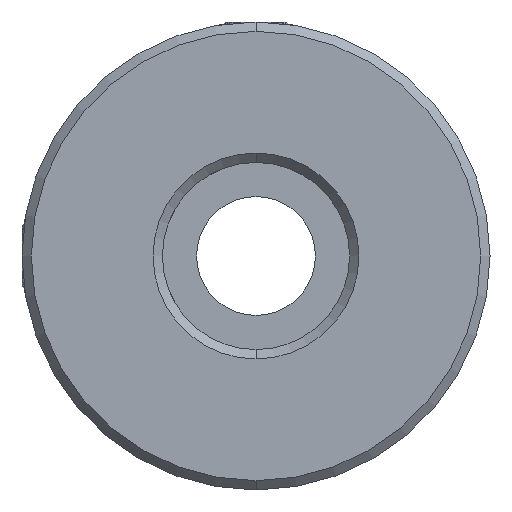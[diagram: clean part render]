
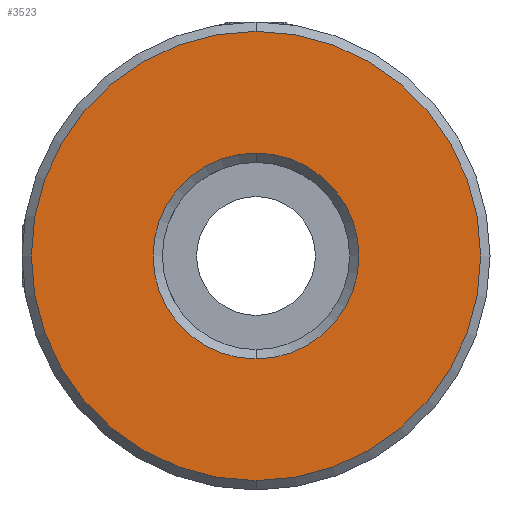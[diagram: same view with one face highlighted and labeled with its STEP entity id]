
A CAD part, front view. The second image highlights one B-rep face of the part: STEP entity #3523.
In plain terms, the highlighted planar face has unit normal (0, -1, 0).
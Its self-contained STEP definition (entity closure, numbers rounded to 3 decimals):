
#47 = DIRECTION ( 'NONE',  ( 0., 1., 0. ) ) ;
#136 = AXIS2_PLACEMENT_3D ( 'NONE', #2851, #47, #2831 ) ;
#149 = DIRECTION ( 'NONE',  ( 0., 1., 0. ) ) ;
#203 = EDGE_CURVE ( 'NONE', #859, #519, #798, .T. ) ;
#399 = EDGE_CURVE ( 'NONE', #3105, #3000, #2914, .T. ) ;
#519 = VERTEX_POINT ( 'NONE', #2438 ) ;
#770 = DIRECTION ( 'NONE',  ( 0., 1., 0. ) ) ;
#795 = EDGE_LOOP ( 'NONE', ( #3685, #1245 ) ) ;
#798 = CIRCLE ( 'NONE', #136, 5.5 ) ;
#859 = VERTEX_POINT ( 'NONE', #3565 ) ;
#997 = PLANE ( 'NONE',  #2037 ) ;
#1077 = EDGE_LOOP ( 'NONE', ( #1468, #2303 ) ) ;
#1212 = DIRECTION ( 'NONE',  ( 0., 0., 1. ) ) ;
#1245 = ORIENTED_EDGE ( 'NONE', *, *, #399, .T. ) ;
#1289 = AXIS2_PLACEMENT_3D ( 'NONE', #1856, #3001, #1212 ) ;
#1321 = FACE_BOUND ( 'NONE', #1077, .T. ) ;
#1446 = DIRECTION ( 'NONE',  ( 0., -1., 0. ) ) ;
#1468 = ORIENTED_EDGE ( 'NONE', *, *, #1656, .T. ) ;
#1656 = EDGE_CURVE ( 'NONE', #519, #859, #1895, .T. ) ;
#1722 = AXIS2_PLACEMENT_3D ( 'NONE', #2451, #770, #1889 ) ;
#1856 = CARTESIAN_POINT ( 'NONE',  ( -10.188, -0.277, 0.046 ) ) ;
#1889 = DIRECTION ( 'NONE',  ( 0., 0., 1. ) ) ;
#1895 = CIRCLE ( 'NONE', #1722, 5.5 ) ;
#2037 = AXIS2_PLACEMENT_3D ( 'NONE', #2727, #149, #2749 ) ;
#2123 = DIRECTION ( 'NONE',  ( 0., 0., 1. ) ) ;
#2201 = CARTESIAN_POINT ( 'NONE',  ( -10.188, -0.277, -11.954 ) ) ;
#2303 = ORIENTED_EDGE ( 'NONE', *, *, #203, .T. ) ;
#2438 = CARTESIAN_POINT ( 'NONE',  ( -10.188, -0.277, -5.454 ) ) ;
#2451 = CARTESIAN_POINT ( 'NONE',  ( -10.188, -0.277, 0.046 ) ) ;
#2601 = CARTESIAN_POINT ( 'NONE',  ( -10.188, -0.277, 12.046 ) ) ;
#2645 = CIRCLE ( 'NONE', #2706, 12. ) ;
#2706 = AXIS2_PLACEMENT_3D ( 'NONE', #2871, #1446, #2123 ) ;
#2727 = CARTESIAN_POINT ( 'NONE',  ( -10.188, -0.277, 0.046 ) ) ;
#2749 = DIRECTION ( 'NONE',  ( 0., 0., 1. ) ) ;
#2831 = DIRECTION ( 'NONE',  ( 0., 0., 1. ) ) ;
#2851 = CARTESIAN_POINT ( 'NONE',  ( -10.188, -0.277, 0.046 ) ) ;
#2871 = CARTESIAN_POINT ( 'NONE',  ( -10.188, -0.277, 0.046 ) ) ;
#2906 = EDGE_CURVE ( 'NONE', #3000, #3105, #2645, .T. ) ;
#2914 = CIRCLE ( 'NONE', #1289, 12. ) ;
#3000 = VERTEX_POINT ( 'NONE', #2601 ) ;
#3001 = DIRECTION ( 'NONE',  ( 0., -1., 0. ) ) ;
#3105 = VERTEX_POINT ( 'NONE', #2201 ) ;
#3523 = ADVANCED_FACE ( 'NONE', ( #3584, #1321 ), #997, .F. ) ;
#3565 = CARTESIAN_POINT ( 'NONE',  ( -10.188, -0.277, 5.546 ) ) ;
#3584 = FACE_OUTER_BOUND ( 'NONE', #795, .T. ) ;
#3685 = ORIENTED_EDGE ( 'NONE', *, *, #2906, .T. ) ;
